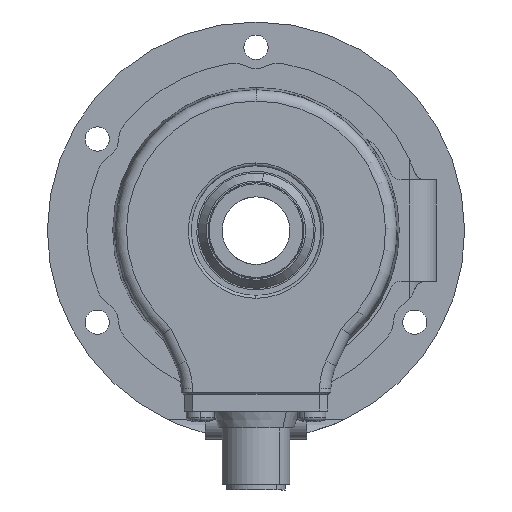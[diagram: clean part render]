
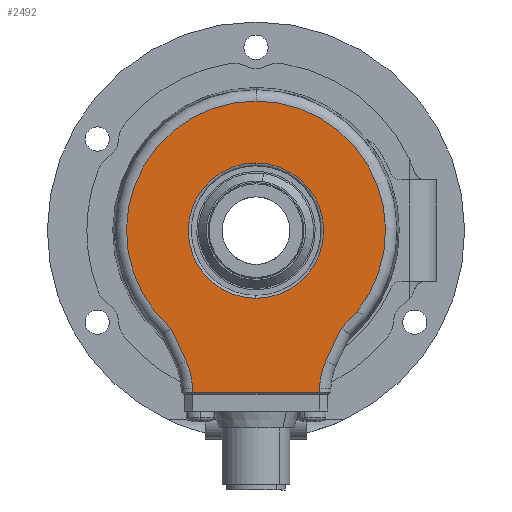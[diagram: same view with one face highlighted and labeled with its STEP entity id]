
A CAD part, left-side view. The second image highlights one B-rep face of the part: STEP entity #2492.
In plain terms, the highlighted planar face has unit normal (-1, 0, 0).
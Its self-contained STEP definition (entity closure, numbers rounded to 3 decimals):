
#2030 = VERTEX_POINT ( 'NONE', #10526 ) ;
#2048 = EDGE_CURVE ( 'NONE', #2316, #2192, #10645, .T. ) ;
#2059 = VERTEX_POINT ( 'NONE', #10775 ) ;
#2138 = EDGE_LOOP ( 'NONE', ( #2139, #2623, #2611, #2615, #2562, #2612, #2613, #2614, #2475 ) ) ;
#2139 = ORIENTED_EDGE ( 'NONE', *, *, #2153, .T. ) ;
#2153 = EDGE_CURVE ( 'NONE', #2207, #2059, #10895, .T. ) ;
#2192 = VERTEX_POINT ( 'NONE', #12260 ) ;
#2194 = VERTEX_POINT ( 'NONE', #12124 ) ;
#2196 = EDGE_CURVE ( 'NONE', #2299, #2194, #12123, .T. ) ;
#2207 = VERTEX_POINT ( 'NONE', #12200 ) ;
#2209 = EDGE_CURVE ( 'NONE', #2194, #2207, #12249, .T. ) ;
#2215 = EDGE_CURVE ( 'NONE', #2192, #2244, #12240, .T. ) ;
#2229 = EDGE_CURVE ( 'NONE', #2334, #2232, #12162, .T. ) ;
#2232 = VERTEX_POINT ( 'NONE', #12299 ) ;
#2234 = VERTEX_POINT ( 'NONE', #12293 ) ;
#2243 = EDGE_CURVE ( 'NONE', #2244, #2299, #11139, .T. ) ;
#2244 = VERTEX_POINT ( 'NONE', #11120 ) ;
#2299 = VERTEX_POINT ( 'NONE', #11165 ) ;
#2316 = VERTEX_POINT ( 'NONE', #11417 ) ;
#2318 = EDGE_CURVE ( 'NONE', #2234, #2316, #11415, .T. ) ;
#2334 = VERTEX_POINT ( 'NONE', #11440 ) ;
#2388 = EDGE_CURVE ( 'NONE', #2059, #2030, #11653, .T. ) ;
#2457 = ORIENTED_EDGE ( 'NONE', *, *, #2491, .T. ) ;
#2474 = EDGE_CURVE ( 'NONE', #2030, #2234, #11881, .T. ) ;
#2475 = ORIENTED_EDGE ( 'NONE', *, *, #2209, .T. ) ;
#2491 = EDGE_CURVE ( 'NONE', #2232, #2334, #12090, .T. ) ;
#2492 = ADVANCED_FACE ( 'NONE', ( #11950, #11949 ), #11934, .F. ) ;
#2493 = EDGE_LOOP ( 'NONE', ( #2494, #2457 ) ) ;
#2494 = ORIENTED_EDGE ( 'NONE', *, *, #2229, .T. ) ;
#2562 = ORIENTED_EDGE ( 'NONE', *, *, #2048, .T. ) ;
#2611 = ORIENTED_EDGE ( 'NONE', *, *, #2474, .T. ) ;
#2612 = ORIENTED_EDGE ( 'NONE', *, *, #2215, .T. ) ;
#2613 = ORIENTED_EDGE ( 'NONE', *, *, #2243, .T. ) ;
#2614 = ORIENTED_EDGE ( 'NONE', *, *, #2196, .T. ) ;
#2615 = ORIENTED_EDGE ( 'NONE', *, *, #2318, .T. ) ;
#2623 = ORIENTED_EDGE ( 'NONE', *, *, #2388, .T. ) ;
#10526 = CARTESIAN_POINT ( 'NONE',  ( -21., -11.255, -28.695 ) ) ;
#10645 = LINE ( 'NONE', #10798, #10797 ) ;
#10775 = CARTESIAN_POINT ( 'NONE',  ( -21., 11.255, -28.695 ) ) ;
#10796 = DIRECTION ( 'NONE',  ( 0., -0.423, 0.906 ) ) ;
#10797 = VECTOR ( 'NONE', #10796, 1000. ) ;
#10798 = CARTESIAN_POINT ( 'NONE',  ( -21., -14.953, -17.615 ) ) ;
#10892 = DIRECTION ( 'NONE',  ( 0., -0.017, -1. ) ) ;
#10893 = VECTOR ( 'NONE', #10892, 1000. ) ;
#10894 = CARTESIAN_POINT ( 'NONE',  ( -21., 11.752, -0.205 ) ) ;
#10895 = LINE ( 'NONE', #10894, #10893 ) ;
#11120 = CARTESIAN_POINT ( 'NONE',  ( -21., 0., 22.972 ) ) ;
#11136 = DIRECTION ( 'NONE',  ( 0., 0., 1. ) ) ;
#11137 = DIRECTION ( 'NONE',  ( -1., 0., 0. ) ) ;
#11138 = AXIS2_PLACEMENT_3D ( 'NONE', #11144, #11137, #11136 ) ;
#11139 = CIRCLE ( 'NONE', #11138, 22.972 ) ;
#11144 = CARTESIAN_POINT ( 'NONE',  ( -21., 0., 0. ) ) ;
#11165 = CARTESIAN_POINT ( 'NONE',  ( -21., 15.091, -17.32 ) ) ;
#11411 = DIRECTION ( 'NONE',  ( 0., 0., 1. ) ) ;
#11412 = DIRECTION ( 'NONE',  ( 1., 0., 0. ) ) ;
#11413 = CARTESIAN_POINT ( 'NONE',  ( -21., -23.266, -28.183 ) ) ;
#11414 = AXIS2_PLACEMENT_3D ( 'NONE', #11413, #11412, #11411 ) ;
#11415 = CIRCLE ( 'NONE', #11414, 12. ) ;
#11417 = CARTESIAN_POINT ( 'NONE',  ( -21., -12.39, -23.112 ) ) ;
#11440 = CARTESIAN_POINT ( 'NONE',  ( -21., 0., 12. ) ) ;
#11650 = DIRECTION ( 'NONE',  ( 0., -1., 0. ) ) ;
#11651 = VECTOR ( 'NONE', #11650, 1000. ) ;
#11652 = CARTESIAN_POINT ( 'NONE',  ( -21., -11.25, -28.695 ) ) ;
#11653 = LINE ( 'NONE', #11652, #11651 ) ;
#11878 = DIRECTION ( 'NONE',  ( 0., -0.017, 1. ) ) ;
#11879 = VECTOR ( 'NONE', #11878, 1000. ) ;
#11880 = CARTESIAN_POINT ( 'NONE',  ( -21., -11.752, -0.205 ) ) ;
#11881 = LINE ( 'NONE', #11880, #11879 ) ;
#11929 = DIRECTION ( 'NONE',  ( 0., 0., 1. ) ) ;
#11930 = DIRECTION ( 'NONE',  ( 1., 0., 0. ) ) ;
#11931 = CARTESIAN_POINT ( 'NONE',  ( -21., 0., 0. ) ) ;
#11932 = AXIS2_PLACEMENT_3D ( 'NONE', #11931, #11930, #11929 ) ;
#11934 = PLANE ( 'NONE',  #11932 ) ;
#11949 = FACE_OUTER_BOUND ( 'NONE', #2138, .T. ) ;
#11950 = FACE_BOUND ( 'NONE', #2493, .T. ) ;
#11951 = DIRECTION ( 'NONE',  ( 0., 0., 1. ) ) ;
#11952 = DIRECTION ( 'NONE',  ( 1., 0., 0. ) ) ;
#11953 = CARTESIAN_POINT ( 'NONE',  ( -21., 0., 0. ) ) ;
#12089 = AXIS2_PLACEMENT_3D ( 'NONE', #11953, #11952, #11951 ) ;
#12090 = CIRCLE ( 'NONE', #12089, 12. ) ;
#12122 = CARTESIAN_POINT ( 'NONE',  ( -21., 12.39, -23.112 ) ) ;
#12123 = LINE ( 'NONE', #12122, #12331 ) ;
#12124 = CARTESIAN_POINT ( 'NONE',  ( -21., 12.39, -23.112 ) ) ;
#12158 = DIRECTION ( 'NONE',  ( 0., 0., 1. ) ) ;
#12159 = DIRECTION ( 'NONE',  ( 1., 0., 0. ) ) ;
#12160 = CARTESIAN_POINT ( 'NONE',  ( -21., 0., 0. ) ) ;
#12161 = AXIS2_PLACEMENT_3D ( 'NONE', #12160, #12159, #12158 ) ;
#12162 = CIRCLE ( 'NONE', #12161, 12. ) ;
#12200 = CARTESIAN_POINT ( 'NONE',  ( -21., 11.268, -27.974 ) ) ;
#12236 = DIRECTION ( 'NONE',  ( 0., 0., 1. ) ) ;
#12237 = DIRECTION ( 'NONE',  ( -1., 0., 0. ) ) ;
#12238 = CARTESIAN_POINT ( 'NONE',  ( -21., 0., 0. ) ) ;
#12239 = AXIS2_PLACEMENT_3D ( 'NONE', #12238, #12237, #12236 ) ;
#12240 = CIRCLE ( 'NONE', #12239, 22.972 ) ;
#12245 = DIRECTION ( 'NONE',  ( 0., 0., 1. ) ) ;
#12246 = DIRECTION ( 'NONE',  ( 1., 0., 0. ) ) ;
#12247 = CARTESIAN_POINT ( 'NONE',  ( -21., 23.266, -28.183 ) ) ;
#12248 = AXIS2_PLACEMENT_3D ( 'NONE', #12247, #12246, #12245 ) ;
#12249 = CIRCLE ( 'NONE', #12248, 12. ) ;
#12260 = CARTESIAN_POINT ( 'NONE',  ( -21., -15.091, -17.32 ) ) ;
#12293 = CARTESIAN_POINT ( 'NONE',  ( -21., -11.268, -27.974 ) ) ;
#12299 = CARTESIAN_POINT ( 'NONE',  ( -21., 0., -12. ) ) ;
#12330 = DIRECTION ( 'NONE',  ( 0., -0.423, -0.906 ) ) ;
#12331 = VECTOR ( 'NONE', #12330, 1000. ) ;
